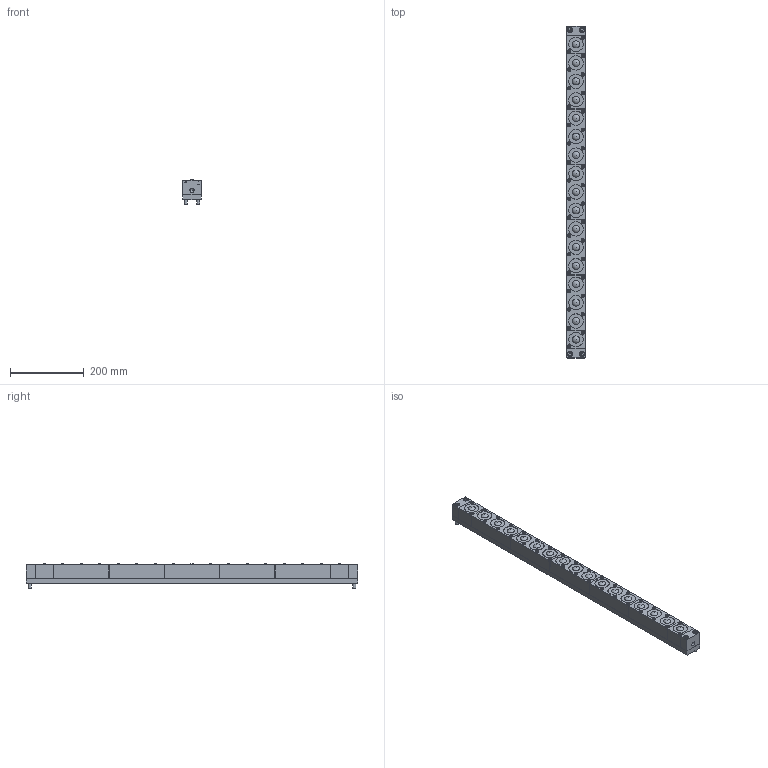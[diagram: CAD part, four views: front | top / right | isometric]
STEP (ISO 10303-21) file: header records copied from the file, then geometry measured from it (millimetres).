
FILE_DESCRIPTION(/* description */ (''),/* implementation_level */ '2;1');
FILE_NAME(/* name */ 'Z:\34-Tei\01-web 3Dデータ\08-ISR-C50S型\ISR-C50S-900-A.stp',/* time_stamp */ '2015-01-15T15:52:48+09:00',/* author */ ('yamaki'),/* organization */ (''),/* preprocessor_version */ 'ST-DEVELOPER v15.6',/* originating_system */ 'Autodesk Inventor 2015',/* authorisation */ '');
FILE_SCHEMA (('AUTOMOTIVE_DESIGN { 1 0 10303 214 3 1 1 }'));
Length unit declared in the file: millimetre
Products named in the file (6): 4200AT-01-900; 4601SL; 4600AA; ISO 4762 - M8 x 55ISO; 4601SL-3; ISR-C50S-100-A
Bounding box: 49.5 x 900 x 67 mm (x, y, z)
Volume: 2219589.2 mm3; surface area: 505372 mm2
Topology: 27 solids, 27 shells, 794 faces, 1668 edges, 1075 vertices
Faces by surface type: plane 531, cylinder 149, cone 57, torus 40, sphere 17
Full cylindrical faces by diameter (mm): 8 x2, 8.5 x34, 9 x2, 9.5 x34, 10.5 x1, 13 x4, 14.5 x4, 38.7 x17, 39 x17, 42 x34
Entity records: 6033 total; most frequent: CARTESIAN_POINT 1078, DIRECTION 972, ORIENTED_EDGE 828, EDGE_CURVE 414, AXIS2_PLACEMENT_3D 352, EDGE_LOOP 330, VERTEX_POINT 296, LINE 268
